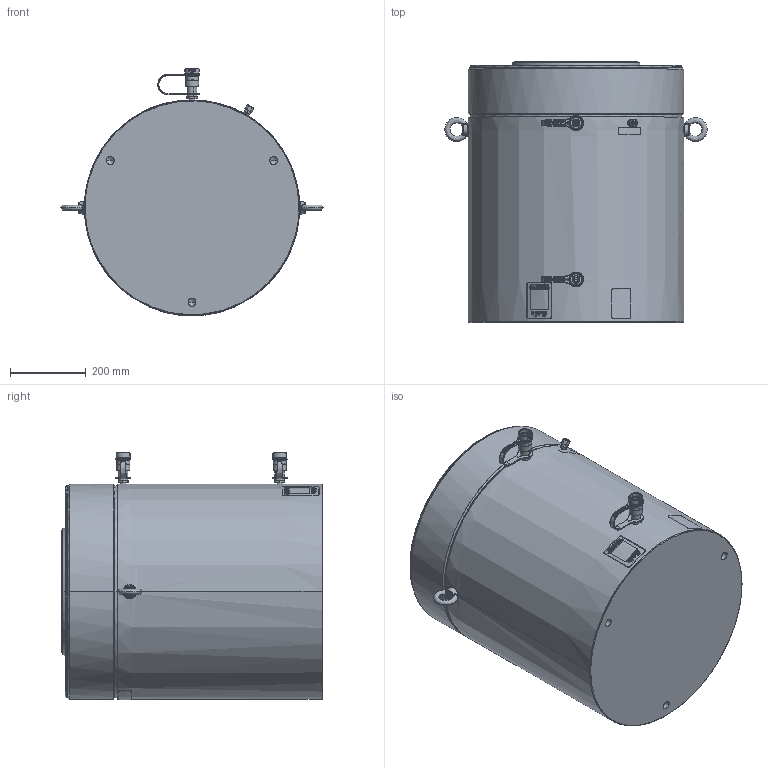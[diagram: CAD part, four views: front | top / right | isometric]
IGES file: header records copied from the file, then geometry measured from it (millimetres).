
Start section:  PTC IGES file: hcr100012.igs
Global section: file name: hcr100012.igs; native system: Creo Parametric by PTC Inc.; preprocessor: 2015290; author: Akhilesh.Subrahmanya; organization: Unknown; date: 20170622.090605; units: millimetre
Bounding box: 693.79 x 692 x 654.47 mm (x, y, z)
Surface area: 2369449.5 mm2 (no closed solid volume)
Topology: 0 solids, 0 shells, 698 faces, 6650 edges, 6638 vertices
Faces by surface type: revolution 445, bspline 249, extrusion 4
